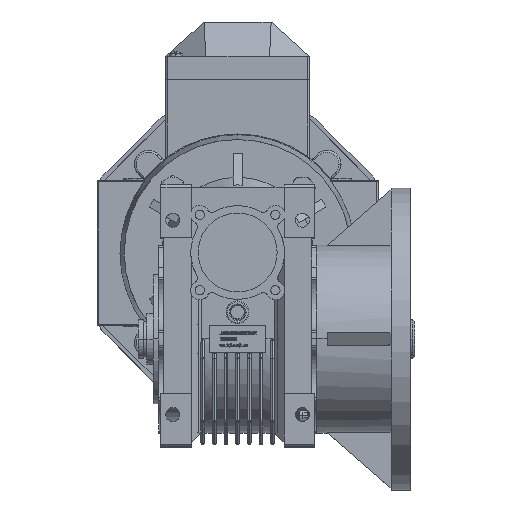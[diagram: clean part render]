
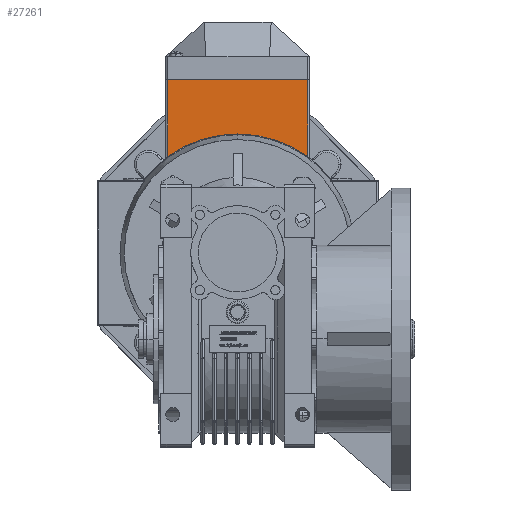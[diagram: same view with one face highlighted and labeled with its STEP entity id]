
A CAD part, top view. The second image highlights one B-rep face of the part: STEP entity #27261.
In plain terms, the highlighted planar face has unit normal (0, 0, 1).
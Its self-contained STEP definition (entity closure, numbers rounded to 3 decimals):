
#229 = LINE ( 'NONE', #27710, #73640 ) ;
#1110 = EDGE_CURVE ( 'NONE', #102161, #60016, #8815, .T. ) ;
#1355 = CARTESIAN_POINT ( 'NONE',  ( 39.834, -33.425, 0. ) ) ;
#2756 = DIRECTION ( 'NONE',  ( 1., 0., 0. ) ) ;
#3737 = DIRECTION ( 'NONE',  ( 1., 0., 0. ) ) ;
#3877 = CARTESIAN_POINT ( 'NONE',  ( 65., -33.425, 0. ) ) ;
#3944 = ORIENTED_EDGE ( 'NONE', *, *, #1110, .T. ) ;
#4564 = DIRECTION ( 'NONE',  ( 1., 0., 0. ) ) ;
#7791 = EDGE_CURVE ( 'NONE', #83601, #27859, #28371, .T. ) ;
#8463 = ORIENTED_EDGE ( 'NONE', *, *, #72175, .T. ) ;
#8520 = EDGE_LOOP ( 'NONE', ( #13453, #37507, #64765, #20883, #33029, #98375, #8463, #20270, #10522, #56942, #42953, #3944 ) ) ;
#8815 = LINE ( 'NONE', #33982, #40672 ) ;
#9863 = DIRECTION ( 'NONE',  ( -1., 0., 0. ) ) ;
#10522 = ORIENTED_EDGE ( 'NONE', *, *, #100951, .T. ) ;
#10631 = VERTEX_POINT ( 'NONE', #108123 ) ;
#11534 = CIRCLE ( 'NONE', #93865, 52. ) ;
#12549 = DIRECTION ( 'NONE',  ( 0., 1., 0. ) ) ;
#12686 = CARTESIAN_POINT ( 'NONE',  ( 39.834, -33.425, 0. ) ) ;
#13453 = ORIENTED_EDGE ( 'NONE', *, *, #108100, .F. ) ;
#13711 = DIRECTION ( 'NONE',  ( 0., -1., 0. ) ) ;
#14974 = ORIENTED_EDGE ( 'NONE', *, *, #78003, .T. ) ;
#17918 = CARTESIAN_POINT ( 'NONE',  ( 32.425, 80.25, 0. ) ) ;
#18951 = DIRECTION ( 'NONE',  ( -1., 0., 0. ) ) ;
#19725 = CARTESIAN_POINT ( 'NONE',  ( 39.834, 33.425, 0. ) ) ;
#20270 = ORIENTED_EDGE ( 'NONE', *, *, #92910, .T. ) ;
#20719 = VECTOR ( 'NONE', #13711, 1000. ) ;
#20863 = DIRECTION ( 'NONE',  ( 0., 0., 1. ) ) ;
#20883 = ORIENTED_EDGE ( 'NONE', *, *, #96980, .F. ) ;
#21295 = FACE_BOUND ( 'NONE', #69378, .T. ) ;
#22270 = CARTESIAN_POINT ( 'NONE',  ( 65., 33.425, 0. ) ) ;
#23573 = VECTOR ( 'NONE', #18951, 1000. ) ;
#27261 = ADVANCED_FACE ( 'NONE', ( #47612, #21295 ), #83612, .T. ) ;
#27285 = VERTEX_POINT ( 'NONE', #30491 ) ;
#27710 = CARTESIAN_POINT ( 'NONE',  ( 65., 33.425, 0. ) ) ;
#27747 = CARTESIAN_POINT ( 'NONE',  ( -39.834, -33.425, 0. ) ) ;
#27859 = VERTEX_POINT ( 'NONE', #61364 ) ;
#27967 = AXIS2_PLACEMENT_3D ( 'NONE', #38321, #92970, #38715 ) ;
#28371 = LINE ( 'NONE', #98554, #110269 ) ;
#30491 = CARTESIAN_POINT ( 'NONE',  ( -32.425, 40.652, 0. ) ) ;
#32074 = VERTEX_POINT ( 'NONE', #111617 ) ;
#33029 = ORIENTED_EDGE ( 'NONE', *, *, #95884, .F. ) ;
#33067 = DIRECTION ( 'NONE',  ( 0., 0., 1. ) ) ;
#33594 = EDGE_CURVE ( 'NONE', #108296, #32074, #84624, .T. ) ;
#33982 = CARTESIAN_POINT ( 'NONE',  ( 32.425, 0., 0. ) ) ;
#34466 = CARTESIAN_POINT ( 'NONE',  ( -39.834, 33.425, 0. ) ) ;
#34533 = CIRCLE ( 'NONE', #27967, 7.35 ) ;
#34908 = DIRECTION ( 'NONE',  ( 0., 0., 1. ) ) ;
#35787 = AXIS2_PLACEMENT_3D ( 'NONE', #99927, #20863, #56484 ) ;
#37507 = ORIENTED_EDGE ( 'NONE', *, *, #67335, .T. ) ;
#38321 = CARTESIAN_POINT ( 'NONE',  ( 0., 0., 0. ) ) ;
#38715 = DIRECTION ( 'NONE',  ( 0., 1., 0. ) ) ;
#38838 = AXIS2_PLACEMENT_3D ( 'NONE', #57809, #66380, #12549 ) ;
#40672 = VECTOR ( 'NONE', #94852, 1000. ) ;
#42299 = VERTEX_POINT ( 'NONE', #86739 ) ;
#42953 = ORIENTED_EDGE ( 'NONE', *, *, #45564, .T. ) ;
#44971 = LINE ( 'NONE', #34466, #89358 ) ;
#45564 = EDGE_CURVE ( 'NONE', #32074, #102161, #11534, .T. ) ;
#47612 = FACE_OUTER_BOUND ( 'NONE', #8520, .T. ) ;
#51625 = DIRECTION ( 'NONE',  ( 0., 1., 0. ) ) ;
#52402 = VERTEX_POINT ( 'NONE', #3877 ) ;
#52616 = VERTEX_POINT ( 'NONE', #73050 ) ;
#55707 = DIRECTION ( 'NONE',  ( 0., 0., 1. ) ) ;
#56484 = DIRECTION ( 'NONE',  ( 1., 0., 0. ) ) ;
#56579 = LINE ( 'NONE', #85806, #88410 ) ;
#56942 = ORIENTED_EDGE ( 'NONE', *, *, #33594, .T. ) ;
#57177 = VECTOR ( 'NONE', #4564, 1000. ) ;
#57809 = CARTESIAN_POINT ( 'NONE',  ( 0., 0., 0. ) ) ;
#57830 = CARTESIAN_POINT ( 'NONE',  ( -32.425, 0., 0. ) ) ;
#59070 = DIRECTION ( 'NONE',  ( 1., 0., 0. ) ) ;
#60016 = VERTEX_POINT ( 'NONE', #17918 ) ;
#61262 = EDGE_CURVE ( 'NONE', #42299, #109286, #34533, .T. ) ;
#61364 = CARTESIAN_POINT ( 'NONE',  ( -65., -33.425, 0. ) ) ;
#64765 = ORIENTED_EDGE ( 'NONE', *, *, #84487, .T. ) ;
#66380 = DIRECTION ( 'NONE',  ( 0., 0., -1. ) ) ;
#67335 = EDGE_CURVE ( 'NONE', #72169, #27285, #94193, .T. ) ;
#68132 = CARTESIAN_POINT ( 'NONE',  ( 0., 7.35, 0. ) ) ;
#69378 = EDGE_LOOP ( 'NONE', ( #14974, #85167 ) ) ;
#71960 = DIRECTION ( 'NONE',  ( 0., 1., 0. ) ) ;
#72169 = VERTEX_POINT ( 'NONE', #99924 ) ;
#72175 = EDGE_CURVE ( 'NONE', #83601, #107557, #102674, .T. ) ;
#73050 = CARTESIAN_POINT ( 'NONE',  ( -39.834, 33.425, 0. ) ) ;
#73640 = VECTOR ( 'NONE', #71960, 1000. ) ;
#78003 = EDGE_CURVE ( 'NONE', #109286, #42299, #87594, .T. ) ;
#79296 = CARTESIAN_POINT ( 'NONE',  ( 32.425, 40.652, 0. ) ) ;
#79497 = CARTESIAN_POINT ( 'NONE',  ( 0., 0., 0. ) ) ;
#83601 = VERTEX_POINT ( 'NONE', #27747 ) ;
#83612 = PLANE ( 'NONE',  #35787 ) ;
#84487 = EDGE_CURVE ( 'NONE', #27285, #52616, #96468, .T. ) ;
#84624 = LINE ( 'NONE', #19725, #23573 ) ;
#85167 = ORIENTED_EDGE ( 'NONE', *, *, #61262, .T. ) ;
#85806 = CARTESIAN_POINT ( 'NONE',  ( -65., 33.425, 0. ) ) ;
#86026 = AXIS2_PLACEMENT_3D ( 'NONE', #79497, #34908, #96948 ) ;
#86739 = CARTESIAN_POINT ( 'NONE',  ( 0., -7.35, 0. ) ) ;
#86800 = DIRECTION ( 'NONE',  ( 1., 0., 0. ) ) ;
#87594 = CIRCLE ( 'NONE', #38838, 7.35 ) ;
#88410 = VECTOR ( 'NONE', #51625, 1000. ) ;
#89358 = VECTOR ( 'NONE', #86800, 1000. ) ;
#92785 = CARTESIAN_POINT ( 'NONE',  ( -33.425, 80.25, 0. ) ) ;
#92910 = EDGE_CURVE ( 'NONE', #107557, #52402, #93222, .T. ) ;
#92970 = DIRECTION ( 'NONE',  ( 0., 0., -1. ) ) ;
#93222 = LINE ( 'NONE', #12686, #57177 ) ;
#93615 = VECTOR ( 'NONE', #3737, 1000. ) ;
#93865 = AXIS2_PLACEMENT_3D ( 'NONE', #93948, #33067, #59070 ) ;
#93948 = CARTESIAN_POINT ( 'NONE',  ( 0., 0., 0. ) ) ;
#94193 = LINE ( 'NONE', #57830, #20719 ) ;
#94852 = DIRECTION ( 'NONE',  ( 0., 1., 0. ) ) ;
#95884 = EDGE_CURVE ( 'NONE', #27859, #10631, #56579, .T. ) ;
#96468 = CIRCLE ( 'NONE', #86026, 52. ) ;
#96948 = DIRECTION ( 'NONE',  ( 1., 0., 0. ) ) ;
#96980 = EDGE_CURVE ( 'NONE', #10631, #52616, #44971, .T. ) ;
#97702 = AXIS2_PLACEMENT_3D ( 'NONE', #100287, #55707, #2756 ) ;
#98375 = ORIENTED_EDGE ( 'NONE', *, *, #7791, .F. ) ;
#98554 = CARTESIAN_POINT ( 'NONE',  ( -39.834, -33.425, 0. ) ) ;
#99924 = CARTESIAN_POINT ( 'NONE',  ( -32.425, 80.25, 0. ) ) ;
#99927 = CARTESIAN_POINT ( 'NONE',  ( 0., 0., 0. ) ) ;
#100287 = CARTESIAN_POINT ( 'NONE',  ( 0., 0., 0. ) ) ;
#100951 = EDGE_CURVE ( 'NONE', #52402, #108296, #229, .T. ) ;
#102161 = VERTEX_POINT ( 'NONE', #79296 ) ;
#102674 = CIRCLE ( 'NONE', #97702, 52. ) ;
#107557 = VERTEX_POINT ( 'NONE', #1355 ) ;
#108100 = EDGE_CURVE ( 'NONE', #72169, #60016, #108833, .T. ) ;
#108123 = CARTESIAN_POINT ( 'NONE',  ( -65., 33.425, 0. ) ) ;
#108296 = VERTEX_POINT ( 'NONE', #22270 ) ;
#108833 = LINE ( 'NONE', #92785, #93615 ) ;
#109286 = VERTEX_POINT ( 'NONE', #68132 ) ;
#110269 = VECTOR ( 'NONE', #9863, 1000. ) ;
#111617 = CARTESIAN_POINT ( 'NONE',  ( 39.834, 33.425, 0. ) ) ;
